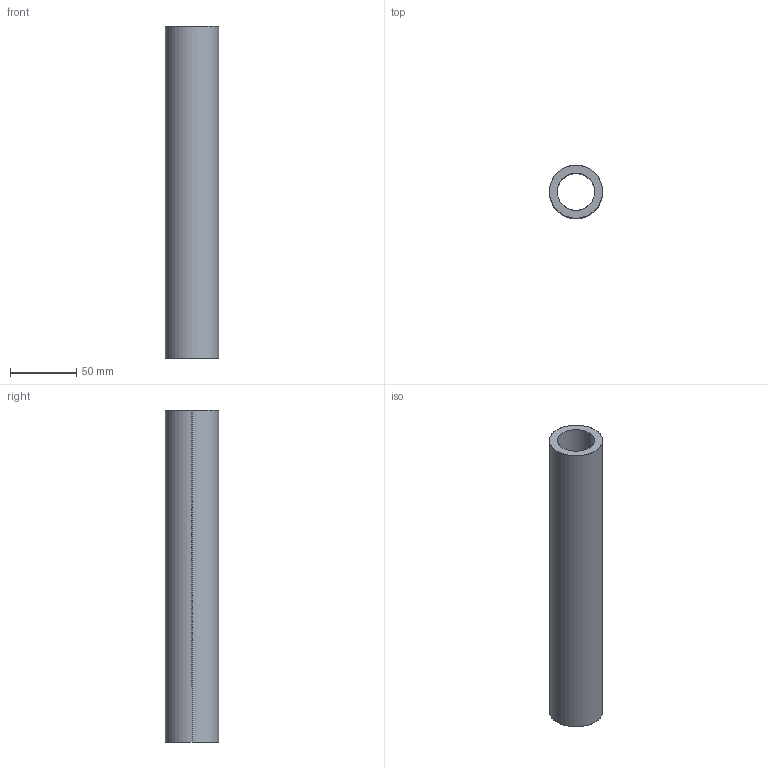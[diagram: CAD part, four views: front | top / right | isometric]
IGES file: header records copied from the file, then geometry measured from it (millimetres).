
Start section: SolidWorks IGES file using analytic representation for surfaces
Global section: file name: C:\Users\IanO\Desktop\L1771_v2\L1771.40_v2\L1771.40_v2_20230705_IGES\L1771.40-0250.igs; native system: SolidWorks 2019; preprocessor: SolidWorks 2019; author: IanO; date: 230705.155834; units: millimetre
Bounding box: 40 x 40 x 250 mm (x, y, z)
Surface area: 54688.8 mm2 (no closed solid volume)
Topology: 0 solids, 0 shells, 6 faces, 272 edges, 272 vertices
Faces by surface type: revolution 4, bspline 2
